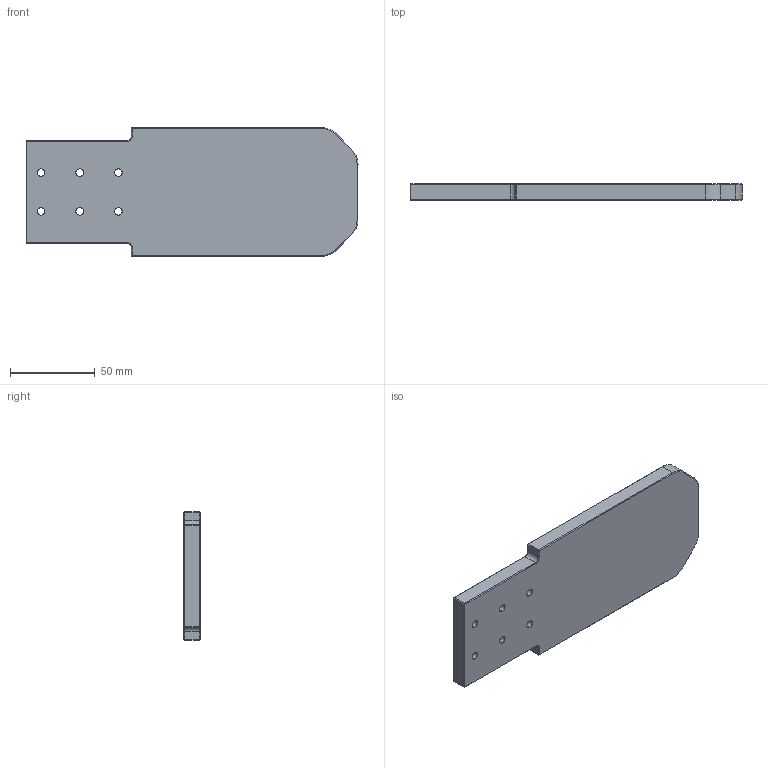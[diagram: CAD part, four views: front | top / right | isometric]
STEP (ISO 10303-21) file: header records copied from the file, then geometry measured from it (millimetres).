
FILE_DESCRIPTION((''),'2;1');
FILE_NAME('LMA95-B','2026-07-24T17:39:06',('R&D'),(''),'CREO PARAMETRIC BY PTC INC, 2021063','CREO PARAMETRIC BY PTC INC, 2021063','');
FILE_SCHEMA(('CONFIG_CONTROL_DESIGN'));
Length unit declared in the file: millimetre
Products named in the file (1): LMA95-B
Bounding box: 196.22 x 9.53 x 76.2 mm (x, y, z)
Volume: 128600.9 mm3; surface area: 32904.4 mm2
Topology: 1 solids, 1 shells, 108 faces, 254 edges, 154 vertices
Faces by surface type: plane 42, cone 36, cylinder 30
Entity records: 3128 total; most frequent: DIRECTION 566, CARTESIAN_POINT 516, ORIENTED_EDGE 508, EDGE_CURVE 254, AXIS2_PLACEMENT_3D 204, VECTOR 158, LINE 158, VERTEX_POINT 154
